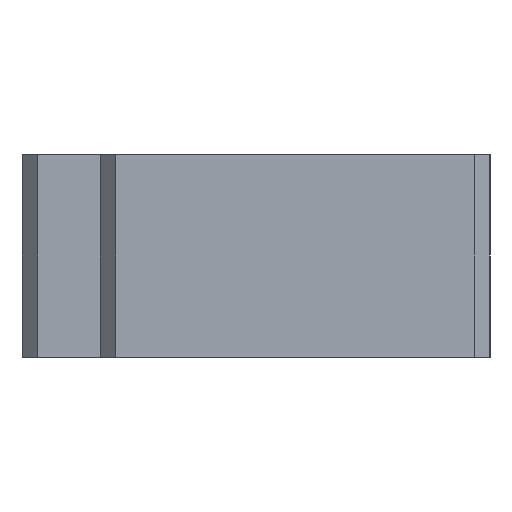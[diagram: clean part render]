
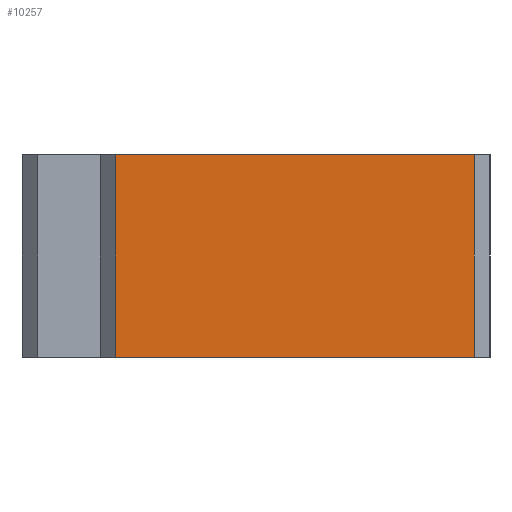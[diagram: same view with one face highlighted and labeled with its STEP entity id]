
A CAD part, left-side view. The second image highlights one B-rep face of the part: STEP entity #10257.
In plain terms, the highlighted planar face has unit normal (-1, 0, 0).
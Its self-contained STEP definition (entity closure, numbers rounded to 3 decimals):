
#96 = EDGE_CURVE ( 'NONE', #652, #8787, #4067, .T. ) ;
#103 = CARTESIAN_POINT ( 'NONE',  ( -80., 32.588, -13. ) ) ;
#437 = EDGE_CURVE ( 'NONE', #16582, #15097, #13819, .T. ) ;
#652 = VERTEX_POINT ( 'NONE', #10950 ) ;
#1653 = AXIS2_PLACEMENT_3D ( 'NONE', #22017, #23742, #4650 ) ;
#2704 = DIRECTION ( 'NONE',  ( 0., 1., 0. ) ) ;
#2935 = DIRECTION ( 'NONE',  ( 0., 1., 0. ) ) ;
#3107 = ORIENTED_EDGE ( 'NONE', *, *, #437, .T. ) ;
#4067 = LINE ( 'NONE', #13563, #16784 ) ;
#4650 = DIRECTION ( 'NONE',  ( 0., 1., 0. ) ) ;
#4675 = CARTESIAN_POINT ( 'NONE',  ( -80., -13.412, -13. ) ) ;
#6383 = VECTOR ( 'NONE', #2935, 1000. ) ;
#6637 = VECTOR ( 'NONE', #2704, 1000. ) ;
#8693 = FACE_OUTER_BOUND ( 'NONE', #15454, .T. ) ;
#8787 = VERTEX_POINT ( 'NONE', #11595 ) ;
#9384 = CARTESIAN_POINT ( 'NONE',  ( -80., 32.588, 13. ) ) ;
#10231 = EDGE_CURVE ( 'NONE', #652, #16582, #12282, .T. ) ;
#10257 = ADVANCED_FACE ( 'NONE', ( #8693 ), #10432, .F. ) ;
#10432 = PLANE ( 'NONE',  #1653 ) ;
#10950 = CARTESIAN_POINT ( 'NONE',  ( -80., -13.412, 13. ) ) ;
#11595 = CARTESIAN_POINT ( 'NONE',  ( -80., -13.412, -13. ) ) ;
#11706 = VECTOR ( 'NONE', #21439, 1000. ) ;
#12266 = ORIENTED_EDGE ( 'NONE', *, *, #19124, .F. ) ;
#12282 = LINE ( 'NONE', #19800, #6383 ) ;
#13563 = CARTESIAN_POINT ( 'NONE',  ( -80., -13.412, 13. ) ) ;
#13819 = LINE ( 'NONE', #19486, #11706 ) ;
#15097 = VERTEX_POINT ( 'NONE', #103 ) ;
#15454 = EDGE_LOOP ( 'NONE', ( #18755, #3107, #12266, #22553 ) ) ;
#16582 = VERTEX_POINT ( 'NONE', #9384 ) ;
#16784 = VECTOR ( 'NONE', #19460, 1000. ) ;
#18755 = ORIENTED_EDGE ( 'NONE', *, *, #10231, .T. ) ;
#19124 = EDGE_CURVE ( 'NONE', #8787, #15097, #19699, .T. ) ;
#19460 = DIRECTION ( 'NONE',  ( 0., 0., -1. ) ) ;
#19486 = CARTESIAN_POINT ( 'NONE',  ( -80., 32.588, 13. ) ) ;
#19699 = LINE ( 'NONE', #4675, #6637 ) ;
#19800 = CARTESIAN_POINT ( 'NONE',  ( -80., 44.588, 13. ) ) ;
#21439 = DIRECTION ( 'NONE',  ( 0., 0., -1. ) ) ;
#22017 = CARTESIAN_POINT ( 'NONE',  ( -80., -13.412, 13. ) ) ;
#22553 = ORIENTED_EDGE ( 'NONE', *, *, #96, .F. ) ;
#23742 = DIRECTION ( 'NONE',  ( 1., 0., 0. ) ) ;
